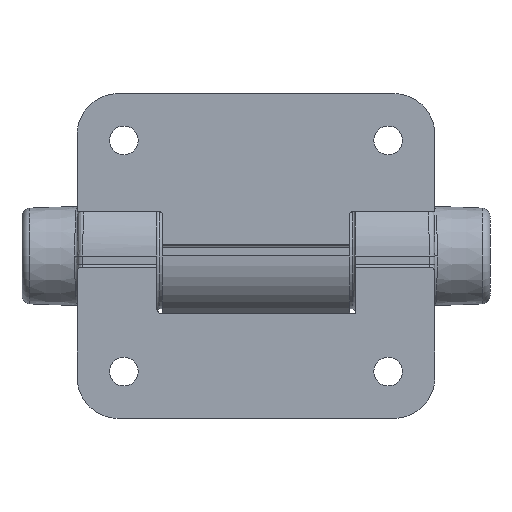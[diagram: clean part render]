
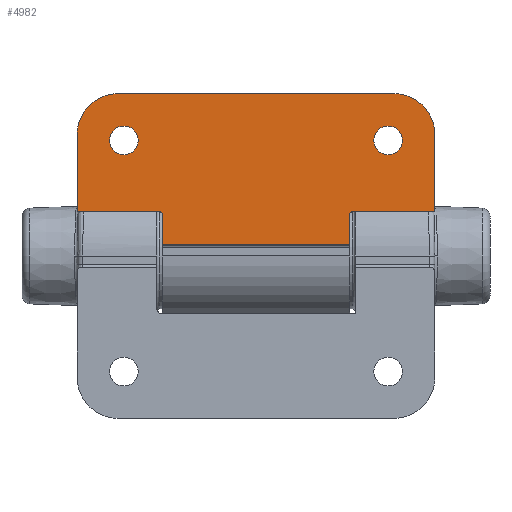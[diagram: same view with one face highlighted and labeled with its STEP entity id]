
A CAD part, front view. The second image highlights one B-rep face of the part: STEP entity #4982.
In plain terms, the highlighted planar face has unit normal (0, -1, 0).
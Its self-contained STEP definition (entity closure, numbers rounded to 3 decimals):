
#87 = DIRECTION ( 'NONE',  ( 0., 0., -1. ) ) ;
#147 = VECTOR ( 'NONE', #6450, 1000. ) ;
#241 = CARTESIAN_POINT ( 'NONE',  ( -24., 0., -18.4 ) ) ;
#260 = CARTESIAN_POINT ( 'NONE',  ( -32.5, 0., -22.005 ) ) ;
#272 = VERTEX_POINT ( 'NONE', #6418 ) ;
#298 = CARTESIAN_POINT ( 'NONE',  ( -17., 0., -2. ) ) ;
#329 = DIRECTION ( 'NONE',  ( 0., 0., 1. ) ) ;
#360 = ORIENTED_EDGE ( 'NONE', *, *, #7275, .T. ) ;
#372 = CARTESIAN_POINT ( 'NONE',  ( -17.5, 0., -8. ) ) ;
#400 = CARTESIAN_POINT ( 'NONE',  ( 25.005, 0., -29.5 ) ) ;
#537 = VERTEX_POINT ( 'NONE', #4546 ) ;
#764 = LINE ( 'NONE', #1402, #3659 ) ;
#1035 = LINE ( 'NONE', #3909, #7158 ) ;
#1055 = VERTEX_POINT ( 'NONE', #400 ) ;
#1184 = CARTESIAN_POINT ( 'NONE',  ( 25.005, 0., -29.5 ) ) ;
#1310 =( BOUNDED_CURVE ( )  B_SPLINE_CURVE ( 3, ( #1184, #5230, #1768, #5800 ),
 .UNSPECIFIED., .F., .T. ) 
 B_SPLINE_CURVE_WITH_KNOTS ( ( 4, 4 ),
 ( 5.498, 7.068 ),
 .UNSPECIFIED. ) 
 CURVE ( )  GEOMETRIC_REPRESENTATION_ITEM ( )  RATIONAL_B_SPLINE_CURVE ( ( 1., 0.805, 0.805, 1. ) ) 
 REPRESENTATION_ITEM ( '' )  );
#1331 = ORIENTED_EDGE ( 'NONE', *, *, #4760, .F. ) ;
#1402 = CARTESIAN_POINT ( 'NONE',  ( 17., 0., 0. ) ) ;
#1435 = CARTESIAN_POINT ( 'NONE',  ( -29.396, 0., -29.5 ) ) ;
#1450 = ORIENTED_EDGE ( 'NONE', *, *, #2276, .F. ) ;
#1507 = VERTEX_POINT ( 'NONE', #3645 ) ;
#1534 = VERTEX_POINT ( 'NONE', #241 ) ;
#1637 = EDGE_CURVE ( 'NONE', #1055, #5659, #2955, .T. ) ;
#1662 = CARTESIAN_POINT ( 'NONE',  ( -32.5, 0., -29.5 ) ) ;
#1683 = ORIENTED_EDGE ( 'NONE', *, *, #4647, .T. ) ;
#1697 = AXIS2_PLACEMENT_3D ( 'NONE', #6631, #3193, #7203 ) ;
#1699 = VECTOR ( 'NONE', #6687, 1000. ) ;
#1744 = EDGE_CURVE ( 'NONE', #5961, #2615, #6475, .T. ) ;
#1748 = CARTESIAN_POINT ( 'NONE',  ( -25.005, 0., -29.5 ) ) ;
#1767 = VERTEX_POINT ( 'NONE', #7277 ) ;
#1768 = CARTESIAN_POINT ( 'NONE',  ( 32.5, 0., -26.396 ) ) ;
#1777 = CIRCLE ( 'NONE', #5810, 2.6 ) ;
#1878 = LINE ( 'NONE', #3001, #147 ) ;
#1882 = VERTEX_POINT ( 'NONE', #2800 ) ;
#1931 = DIRECTION ( 'NONE',  ( 0., -1., 0. ) ) ;
#1992 = ORIENTED_EDGE ( 'NONE', *, *, #3206, .F. ) ;
#2019 = CARTESIAN_POINT ( 'NONE',  ( -17.5, 0., -7.5 ) ) ;
#2208 = CARTESIAN_POINT ( 'NONE',  ( 32.5, 0., -8. ) ) ;
#2276 = EDGE_CURVE ( 'NONE', #537, #1767, #1878, .T. ) ;
#2284 = EDGE_CURVE ( 'NONE', #272, #5961, #3588, .T. ) ;
#2344 = CARTESIAN_POINT ( 'NONE',  ( -32.5, 0., -8. ) ) ;
#2398 = CIRCLE ( 'NONE', #1697, 2.6 ) ;
#2435 = EDGE_CURVE ( 'NONE', #1055, #1767, #1310, .T. ) ;
#2473 = CARTESIAN_POINT ( 'NONE',  ( -32.5, 0., -22.005 ) ) ;
#2480 = AXIS2_PLACEMENT_3D ( 'NONE', #6429, #3007, #7006 ) ;
#2527 = VERTEX_POINT ( 'NONE', #5880 ) ;
#2570 = VERTEX_POINT ( 'NONE', #2473 ) ;
#2615 = VERTEX_POINT ( 'NONE', #4265 ) ;
#2623 = DIRECTION ( 'NONE',  ( 0., 0., -1. ) ) ;
#2800 = CARTESIAN_POINT ( 'NONE',  ( 24., 0., -23.6 ) ) ;
#2816 = AXIS2_PLACEMENT_3D ( 'NONE', #2019, #6062, #2623 ) ;
#2831 = DIRECTION ( 'NONE',  ( 0., 0., 1. ) ) ;
#2851 = DIRECTION ( 'NONE',  ( 0., 1., 0. ) ) ;
#2864 = ORIENTED_EDGE ( 'NONE', *, *, #4447, .F. ) ;
#2955 = LINE ( 'NONE', #3474, #7159 ) ;
#2984 = CARTESIAN_POINT ( 'NONE',  ( 0., 0., 0. ) ) ;
#3001 = CARTESIAN_POINT ( 'NONE',  ( 32.5, 0., -29.5 ) ) ;
#3007 = DIRECTION ( 'NONE',  ( 0., 1., 0. ) ) ;
#3144 = ORIENTED_EDGE ( 'NONE', *, *, #3531, .T. ) ;
#3153 = DIRECTION ( 'NONE',  ( 0., 0., -1. ) ) ;
#3193 = DIRECTION ( 'NONE',  ( 0., -1., 0. ) ) ;
#3206 = EDGE_CURVE ( 'NONE', #1882, #3211, #2398, .T. ) ;
#3209 = LINE ( 'NONE', #2208, #4399 ) ;
#3211 = VERTEX_POINT ( 'NONE', #6063 ) ;
#3231 = EDGE_LOOP ( 'NONE', ( #3945, #1992 ) ) ;
#3285 = DIRECTION ( 'NONE',  ( 1., 0., 0. ) ) ;
#3368 = CARTESIAN_POINT ( 'NONE',  ( -17., 0., 0. ) ) ;
#3378 = LINE ( 'NONE', #1662, #6266 ) ;
#3474 = CARTESIAN_POINT ( 'NONE',  ( 32.5, 0., -29.5 ) ) ;
#3496 = CIRCLE ( 'NONE', #4871, 2.6 ) ;
#3531 = EDGE_CURVE ( 'NONE', #272, #4413, #5184, .T. ) ;
#3546 = DIRECTION ( 'NONE',  ( 0., -1., 0. ) ) ;
#3588 = LINE ( 'NONE', #3368, #4583 ) ;
#3645 = CARTESIAN_POINT ( 'NONE',  ( -24., 0., -23.6 ) ) ;
#3659 = VECTOR ( 'NONE', #3153, 1000. ) ;
#3724 = CARTESIAN_POINT ( 'NONE',  ( -32.5, 0., -26.396 ) ) ;
#3795 = ORIENTED_EDGE ( 'NONE', *, *, #7029, .T. ) ;
#3810 = DIRECTION ( 'NONE',  ( 0., 1., 0. ) ) ;
#3909 = CARTESIAN_POINT ( 'NONE',  ( -32.5, 0., -8. ) ) ;
#3941 = DIRECTION ( 'NONE',  ( -1., 0., 0. ) ) ;
#3945 = ORIENTED_EDGE ( 'NONE', *, *, #5860, .F. ) ;
#3979 = DIRECTION ( 'NONE',  ( 0., 0., 1. ) ) ;
#4052 = DIRECTION ( 'NONE',  ( -1., 0., 0. ) ) ;
#4123 = FACE_BOUND ( 'NONE', #3231, .T. ) ;
#4265 = CARTESIAN_POINT ( 'NONE',  ( 17., 0., -2. ) ) ;
#4370 = ORIENTED_EDGE ( 'NONE', *, *, #6673, .F. ) ;
#4399 = VECTOR ( 'NONE', #3941, 1000. ) ;
#4413 = VERTEX_POINT ( 'NONE', #372 ) ;
#4436 = CARTESIAN_POINT ( 'NONE',  ( -32.5, 0., -2. ) ) ;
#4447 = EDGE_CURVE ( 'NONE', #4928, #4413, #1035, .T. ) ;
#4546 = CARTESIAN_POINT ( 'NONE',  ( 32.5, 0., -8. ) ) ;
#4583 = VECTOR ( 'NONE', #3979, 1000. ) ;
#4647 = EDGE_CURVE ( 'NONE', #1534, #1507, #5916, .T. ) ;
#4760 = EDGE_CURVE ( 'NONE', #2615, #2527, #764, .T. ) ;
#4871 = AXIS2_PLACEMENT_3D ( 'NONE', #5380, #1931, #5970 ) ;
#4873 = AXIS2_PLACEMENT_3D ( 'NONE', #6300, #2851, #6859 ) ;
#4928 = VERTEX_POINT ( 'NONE', #2344 ) ;
#4982 = ADVANCED_FACE ( 'NONE', ( #6789, #5277, #4123 ), #6970, .T. ) ;
#5009 = EDGE_LOOP ( 'NONE', ( #1683, #6890 ) ) ;
#5017 = CARTESIAN_POINT ( 'NONE',  ( 17.5, 0., -8. ) ) ;
#5184 = CIRCLE ( 'NONE', #2816, 0.5 ) ;
#5230 = CARTESIAN_POINT ( 'NONE',  ( 29.396, 0., -29.5 ) ) ;
#5277 = FACE_BOUND ( 'NONE', #5009, .T. ) ;
#5380 = CARTESIAN_POINT ( 'NONE',  ( 24., 0., -21. ) ) ;
#5452 = CARTESIAN_POINT ( 'NONE',  ( -25.005, 0., -29.5 ) ) ;
#5596 = ORIENTED_EDGE ( 'NONE', *, *, #2284, .F. ) ;
#5659 = VERTEX_POINT ( 'NONE', #1748 ) ;
#5800 = CARTESIAN_POINT ( 'NONE',  ( 32.5, 0., -22.005 ) ) ;
#5810 = AXIS2_PLACEMENT_3D ( 'NONE', #7216, #3810, #329 ) ;
#5860 = EDGE_CURVE ( 'NONE', #3211, #1882, #3496, .T. ) ;
#5880 = CARTESIAN_POINT ( 'NONE',  ( 17., 0., -7.5 ) ) ;
#5916 = CIRCLE ( 'NONE', #2480, 2.6 ) ;
#5954 =( BOUNDED_CURVE ( )  B_SPLINE_CURVE ( 3, ( #260, #3724, #1435, #5452 ),
 .UNSPECIFIED., .F., .T. ) 
 B_SPLINE_CURVE_WITH_KNOTS ( ( 4, 4 ),
 ( 5.498, 7.068 ),
 .UNSPECIFIED. ) 
 CURVE ( )  GEOMETRIC_REPRESENTATION_ITEM ( )  RATIONAL_B_SPLINE_CURVE ( ( 1., 0.805, 0.805, 1. ) ) 
 REPRESENTATION_ITEM ( '' )  );
#5961 = VERTEX_POINT ( 'NONE', #298 ) ;
#5970 = DIRECTION ( 'NONE',  ( 0., 0., 1. ) ) ;
#6062 = DIRECTION ( 'NONE',  ( 0., 1., 0. ) ) ;
#6063 = CARTESIAN_POINT ( 'NONE',  ( 24., 0., -18.4 ) ) ;
#6207 = ORIENTED_EDGE ( 'NONE', *, *, #7304, .T. ) ;
#6266 = VECTOR ( 'NONE', #2831, 1000. ) ;
#6300 = CARTESIAN_POINT ( 'NONE',  ( 17.5, 0., -7.5 ) ) ;
#6389 = EDGE_LOOP ( 'NONE', ( #6581, #6694, #1450, #360, #6207, #1331, #7276, #5596, #3144, #2864, #4370, #3795 ) ) ;
#6418 = CARTESIAN_POINT ( 'NONE',  ( -17., 0., -7.5 ) ) ;
#6429 = CARTESIAN_POINT ( 'NONE',  ( -24., 0., -21. ) ) ;
#6450 = DIRECTION ( 'NONE',  ( 0., 0., -1. ) ) ;
#6475 = LINE ( 'NONE', #4436, #1699 ) ;
#6484 = EDGE_CURVE ( 'NONE', #1507, #1534, #1777, .T. ) ;
#6581 = ORIENTED_EDGE ( 'NONE', *, *, #1637, .F. ) ;
#6631 = CARTESIAN_POINT ( 'NONE',  ( 24., 0., -21. ) ) ;
#6673 = EDGE_CURVE ( 'NONE', #2570, #4928, #3378, .T. ) ;
#6687 = DIRECTION ( 'NONE',  ( 1., 0., 0. ) ) ;
#6694 = ORIENTED_EDGE ( 'NONE', *, *, #2435, .T. ) ;
#6789 = FACE_OUTER_BOUND ( 'NONE', #6389, .T. ) ;
#6859 = DIRECTION ( 'NONE',  ( 0., 0., -1. ) ) ;
#6890 = ORIENTED_EDGE ( 'NONE', *, *, #6484, .T. ) ;
#6951 = AXIS2_PLACEMENT_3D ( 'NONE', #2984, #3546, #87 ) ;
#6970 = PLANE ( 'NONE',  #6951 ) ;
#7006 = DIRECTION ( 'NONE',  ( 0., 0., 1. ) ) ;
#7029 = EDGE_CURVE ( 'NONE', #2570, #5659, #5954, .T. ) ;
#7158 = VECTOR ( 'NONE', #3285, 1000. ) ;
#7159 = VECTOR ( 'NONE', #4052, 1000. ) ;
#7186 = VERTEX_POINT ( 'NONE', #5017 ) ;
#7189 = CIRCLE ( 'NONE', #4873, 0.5 ) ;
#7203 = DIRECTION ( 'NONE',  ( 0., 0., 1. ) ) ;
#7216 = CARTESIAN_POINT ( 'NONE',  ( -24., 0., -21. ) ) ;
#7275 = EDGE_CURVE ( 'NONE', #537, #7186, #3209, .T. ) ;
#7276 = ORIENTED_EDGE ( 'NONE', *, *, #1744, .F. ) ;
#7277 = CARTESIAN_POINT ( 'NONE',  ( 32.5, 0., -22.005 ) ) ;
#7304 = EDGE_CURVE ( 'NONE', #7186, #2527, #7189, .T. ) ;
